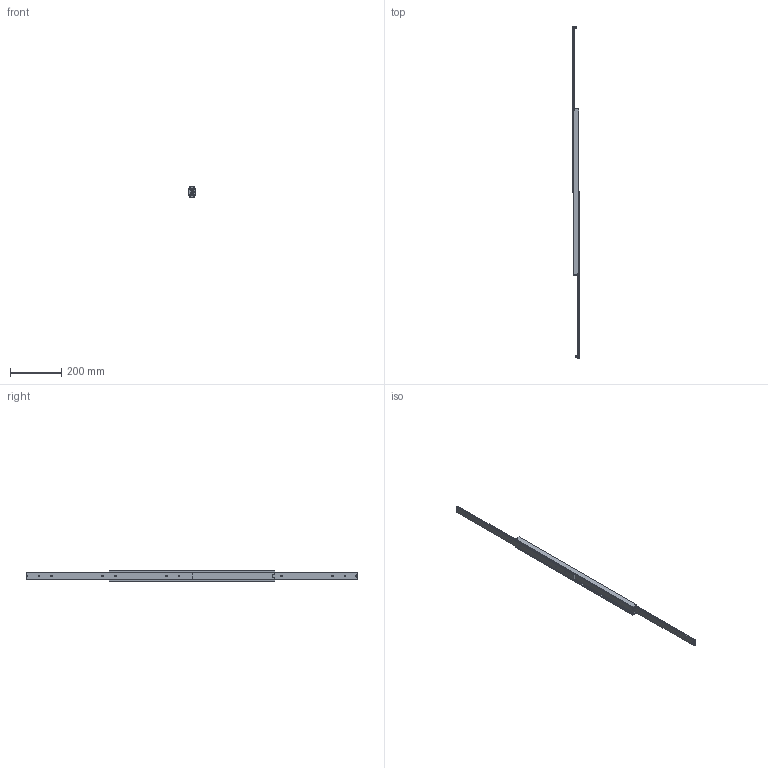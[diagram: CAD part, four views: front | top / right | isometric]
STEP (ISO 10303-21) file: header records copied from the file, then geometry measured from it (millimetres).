
FILE_DESCRIPTION(/* description */ (''),/* implementation_level */ '2;1');
FILE_NAME(/* name */ 'C:\Users\Miluxor\Desktop\Miluxor Schienen\Original Zeichnungen\Zeichnungen Schienen Komplett\MX-DTP40\MX-DTP40.065\MX-DTP40.065_ausgefahren.stp',/* time_stamp */ '2019-10-07T09:22:45+02:00',/* author */ ('Miluxor'),/* organization */ (''),/* preprocessor_version */ 'ST-DEVELOPER v16.13',/* originating_system */ 'AutoCAD Mechanical',/* authorisation */ '');
FILE_SCHEMA (('AUTOMOTIVE_DESIGN { 1 0 10303 214 3 1 1 }'));
Products named in the file (1): Product
Bounding box: 24 x 1300 x 40.5 mm (x, y, z)
Volume: 492933.5 mm3; surface area: 249024.9 mm2
Topology: 83 solids, 83 shells, 562 faces, 1436 edges, 952 vertices
Faces by surface type: plane 352, cylinder 80, bspline 68, sphere 48, cone 8, torus 6
Full cylindrical faces by diameter (mm): 4 x2, 6 x60, 10 x2
Entity records: 53561 total; most frequent: CARTESIAN_POINT 40805, ORIENTED_EDGE 2504, DIRECTION 2300, EDGE_CURVE 1252, VERTEX_POINT 942, LINE 834, VECTOR 834, EDGE_LOOP 768
